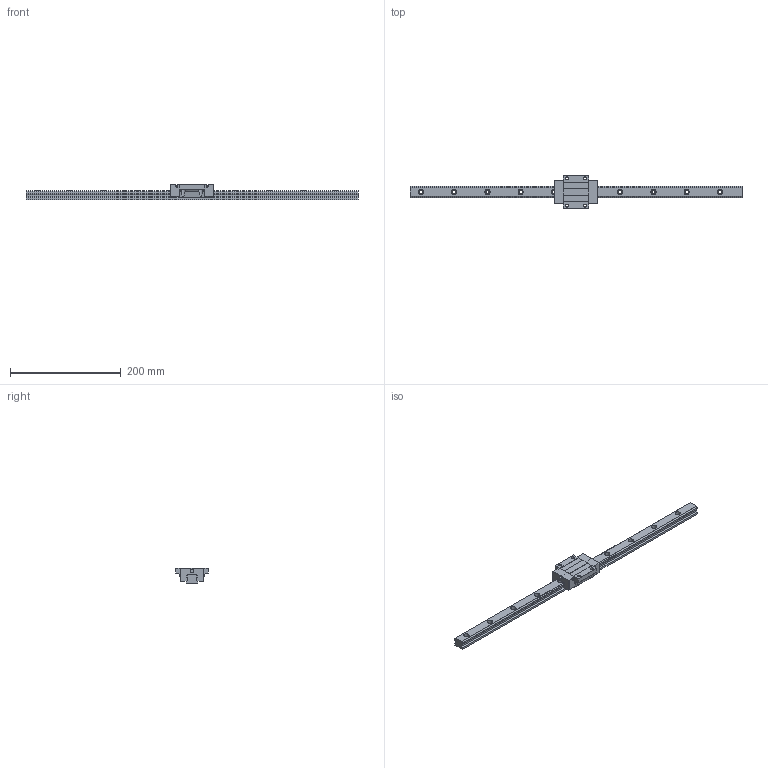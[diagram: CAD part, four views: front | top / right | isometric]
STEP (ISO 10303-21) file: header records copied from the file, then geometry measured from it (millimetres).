
FILE_DESCRIPTION (( 'STEP AP203' ), '1' );
FILE_NAME ('TRS20FN-ZN.STEP', '2024-05-22T09:09:09', ( '' ), ( '' ), 'SwSTEP 2.0', 'SolidWorks 2022', '' );
FILE_SCHEMA (( 'CONFIG_CONTROL_DESIGN' ));
Length unit declared in the file: millimetre
Products named in the file (1): TRS20FN-ZN
Bounding box: 600 x 59 x 28 mm (x, y, z)
Volume: 230852.6 mm3; surface area: 65550.7 mm2
Topology: 2 solids, 2 shells, 234 faces, 618 edges, 400 vertices
Faces by surface type: cylinder 124, plane 106, sphere 4
Entity records: 7573 total; most frequent: CARTESIAN_POINT 1509, DIRECTION 1284, ORIENTED_EDGE 1228, EDGE_CURVE 614, AXIS2_PLACEMENT_3D 459, VERTEX_POINT 400, VECTOR 366, LINE 366
